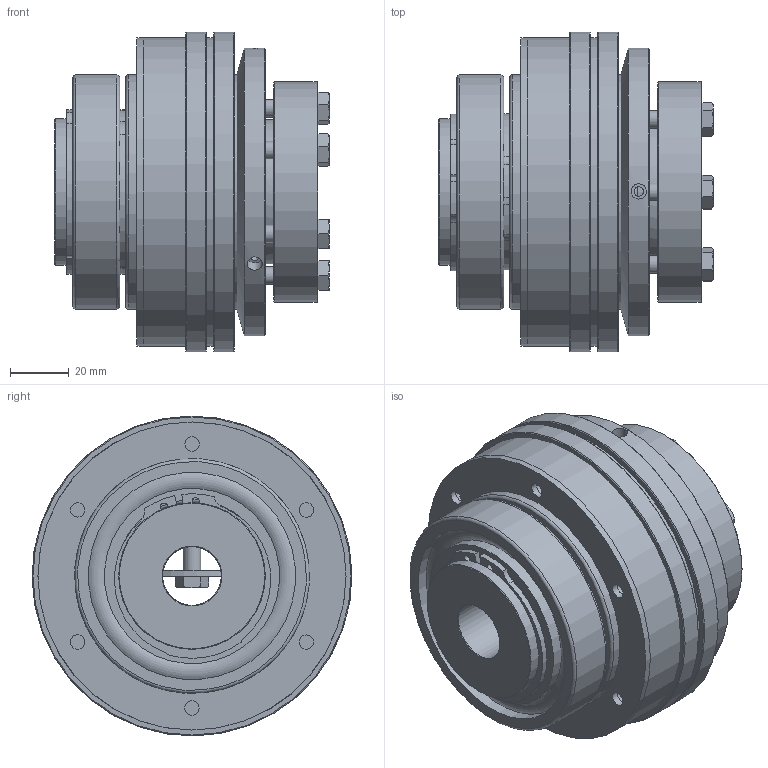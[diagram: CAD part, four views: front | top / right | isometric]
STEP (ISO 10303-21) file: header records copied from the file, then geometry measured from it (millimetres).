
FILE_DESCRIPTION( ( 'Unknown' ), '1' );
FILE_NAME( 'C:/Dokumente und Einstellungen/Sven/Desktop/hp kbk/KBK LL-A-200.stp', 'Unknown', ( 'Unknown' ), ( 'Unknown' ), 'XStep 1.0', 'Unknown', ' ' );
FILE_SCHEMA( ( 'automotive_design' ) );
Length unit declared in the file: millimetre
Products named in the file (12): Assem1; Assem2; ball_bearing_-_6010_0_01; ball_bearing_-_6010_0_02; ball_bearing_-_6010_0_03; Stellring 200; Druckring 200; a_50; Druckring L-A-200; din_en_24017_m6x25_0; KBK LL-A-200 Grundkörper; Flansch 200
Bounding box: 93.5 x 109 x 109 mm (x, y, z)
Volume: 945621.9 mm3; surface area: 311663.7 mm2
Topology: 32 solids, 32 shells, 524 faces, 1096 edges, 699 vertices
Faces by surface type: plane 211, cylinder 166, cone 108, torus 39
Full cylindrical faces by diameter (mm): 2.5 x6, 3.242 x6, 4.917 x24, 5.2 x12, 6 x7, 6.6 x12, 8.8 x7, 20 x2, 47 x4, 49.29 x2, 50 x10, 59.7 x8, 62 x2, 66 x4, 70.6 x8, 72 x2, 75 x2, 77 x2, 80 x6, 90 x2, 98 x2, 105 x4, 109 x2
Entity records: 5061 total; most frequent: CARTESIAN_POINT 1111, DIRECTION 836, ORIENTED_EDGE 538, AXIS2_PLACEMENT_3D 392, EDGE_LOOP 332, EDGE_CURVE 269, FACE_OUTER_BOUND 246, VERTEX_POINT 221
